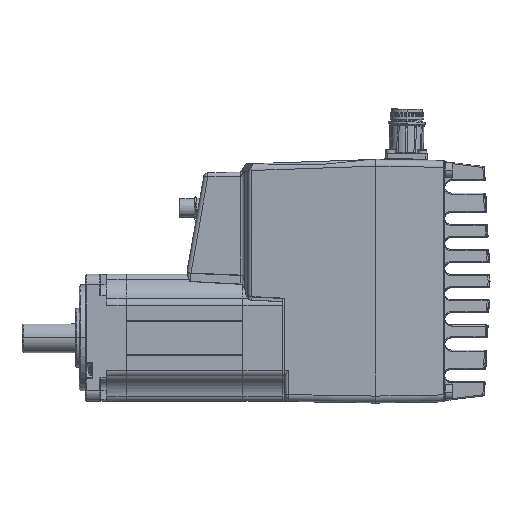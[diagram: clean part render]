
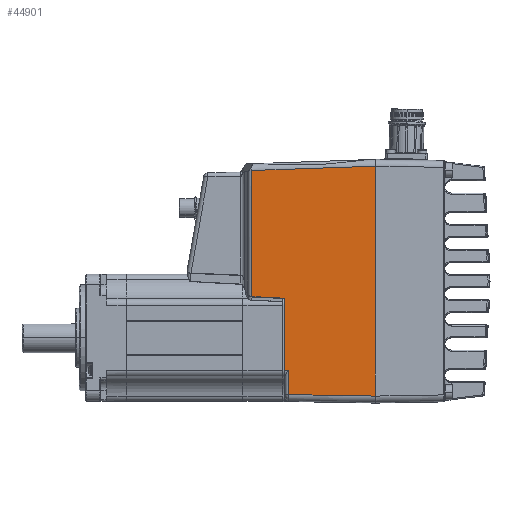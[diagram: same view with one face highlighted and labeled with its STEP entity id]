
A CAD part, top view. The second image highlights one B-rep face of the part: STEP entity #44901.
In plain terms, the highlighted planar face has unit normal (-0.035, 0, 0.999) as drawn and (0.999, 0, 0.035) by its records, which use the part's own axes.
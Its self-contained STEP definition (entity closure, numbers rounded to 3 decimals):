
#2368=DIRECTION('',(0.036,0.,-0.999));
#2369=VECTOR('',#2368,1.885);
#2370=CARTESIAN_POINT('',(30.001,-42.249,42.904));
#2371=LINE('',#2370,#2369);
#2390=DIRECTION('',(-0.035,0.017,0.999));
#2391=VECTOR('',#2390,40.954);
#2392=CARTESIAN_POINT('',(31.497,-54.3,
0.097));
#2393=LINE('',#2392,#2391);
#2397=CARTESIAN_POINT('',(30.002,-8.093,42.903));
#2398=CARTESIAN_POINT('',(29.84,-7.815,47.536));
#2399=CARTESIAN_POINT('',(29.658,-7.545,52.737));
#2400=CARTESIAN_POINT('',(29.458,-7.285,58.468));
#2405=DIRECTION('',(0.035,0.035,-0.999));
#2406=VECTOR('',#2405,58.442);
#2407=CARTESIAN_POINT('',(29.458,52.26,58.468));
#2408=LINE('',#2407,#2406);
#3946=DIRECTION('',(0.,-1.,0.));
#3947=VECTOR('',#3946,11.336);
#3948=CARTESIAN_POINT('',(30.068,-42.249,41.02));
#3949=LINE('',#3948,#3947);
#4821=CARTESIAN_POINT('',(29.458,-7.285,58.468));
#4890=DIRECTION('',(0.,-1.,0.));
#4891=VECTOR('',#4890,34.156);
#4892=CARTESIAN_POINT('',(30.002,-8.093,42.903));
#4893=LINE('',#4892,#4891);
#4928=DIRECTION('',(0.,-1.,0.));
#4929=VECTOR('',#4928,59.545);
#4930=CARTESIAN_POINT('',(29.458,52.26,58.468));
#4931=LINE('',#4930,#4929);
#5411=DIRECTION('',(0.,1.,0.));
#5412=VECTOR('',#5411,108.598);
#5413=CARTESIAN_POINT('',(31.497,-54.3,
0.097));
#5414=LINE('',#5413,#5412);
#37586=VERTEX_POINT('',#4821);
#37638=CARTESIAN_POINT('',(30.001,-42.249,
42.904));
#37640=VERTEX_POINT('',#37638);
#37644=CARTESIAN_POINT('',(30.068,-42.249,
41.02));
#37645=VERTEX_POINT('',#37644);
#37646=CARTESIAN_POINT('',(31.497,-54.3,
0.097));
#37647=CARTESIAN_POINT('',(30.068,-53.585,
41.02));
#37648=VERTEX_POINT('',#37646);
#37649=VERTEX_POINT('',#37647);
#37650=VERTEX_POINT('',#2397);
#37651=CARTESIAN_POINT('',(29.458,52.26,58.468));
#37652=CARTESIAN_POINT('',(31.496,54.299,
0.097));
#37653=VERTEX_POINT('',#37651);
#37654=VERTEX_POINT('',#37652);
#44879=CARTESIAN_POINT('',(30.477,-0.001,
29.282));
#44880=DIRECTION('',(0.999,0.,0.035));
#44881=DIRECTION('',(0.,-1.,0.));
#44882=AXIS2_PLACEMENT_3D('',#44879,#44880,#44881);
#44883=PLANE('',#44882);
#44885=ORIENTED_EDGE('',*,*,#44884,.T.);
#44887=ORIENTED_EDGE('',*,*,#44886,.F.);
#44888=ORIENTED_EDGE('',*,*,#44871,.F.);
#44890=ORIENTED_EDGE('',*,*,#44889,.F.);
#44892=ORIENTED_EDGE('',*,*,#44891,.T.);
#44894=ORIENTED_EDGE('',*,*,#44893,.F.);
#44896=ORIENTED_EDGE('',*,*,#44895,.T.);
#44898=ORIENTED_EDGE('',*,*,#44897,.F.);
#44899=EDGE_LOOP('',(#44885,#44887,#44888,#44890,#44892,#44894,#44896,#44898));
#44900=FACE_OUTER_BOUND('',#44899,.F.);
#2401=B_SPLINE_CURVE_WITH_KNOTS('',3,(#2397,#2398,#2399,#2400),.UNSPECIFIED.,
.F.,.F.,(4,4),(0.,1.),.UNSPECIFIED.);
#44871=EDGE_CURVE('',#37640,#37645,#2371,.T.);
#44884=EDGE_CURVE('',#37648,#37649,#2393,.T.);
#44886=EDGE_CURVE('',#37645,#37649,#3949,.T.);
#44889=EDGE_CURVE('',#37650,#37640,#4893,.T.);
#44891=EDGE_CURVE('',#37650,#37586,#2401,.T.);
#44893=EDGE_CURVE('',#37653,#37586,#4931,.T.);
#44895=EDGE_CURVE('',#37653,#37654,#2408,.T.);
#44897=EDGE_CURVE('',#37648,#37654,#5414,.T.);
#44901=ADVANCED_FACE('',(#44900),#44883,.T.);
